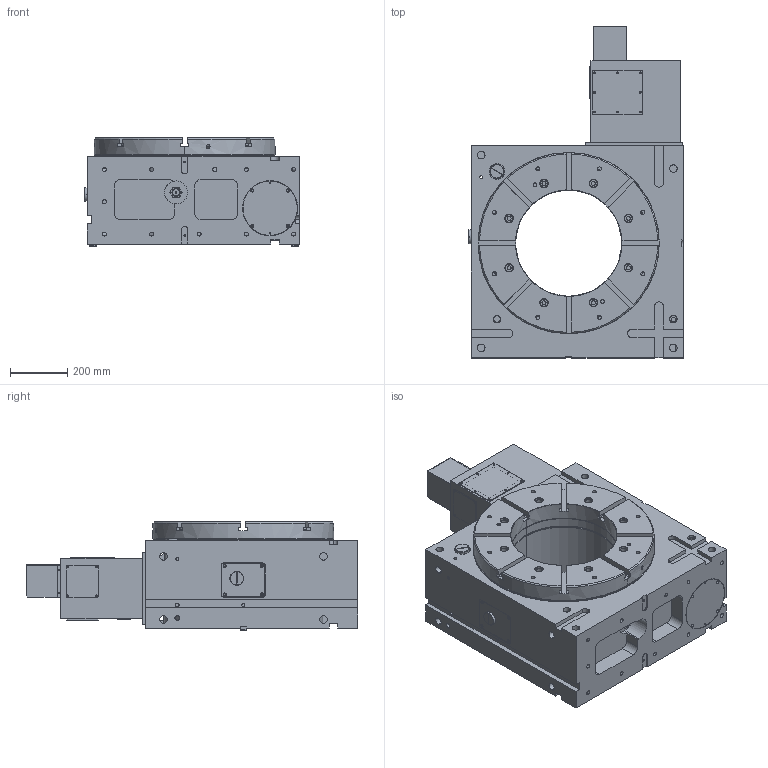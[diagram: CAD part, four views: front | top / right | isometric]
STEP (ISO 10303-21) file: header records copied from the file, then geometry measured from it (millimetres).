
FILE_DESCRIPTION (( 'STEP AP203' ), '1' );
FILE_NAME ('1524467-MDX632R.STEP', '2020-11-25T23:14:49', ( '' ), ( '' ), 'SwSTEP 2.0', 'SolidWorks 2019', '' );
FILE_SCHEMA (( 'CONFIG_CONTROL_DESIGN' ));
Length unit declared in the file: millimetre
Products named in the file (1): 1524467-MDX632R
Bounding box: 749 x 1157.3 x 377 mm (x, y, z)
Surface area: 3741961.2 mm2 (no closed solid volume)
Topology: 0 solids, 50 shells, 880 faces, 2931 edges, 2095 vertices
Faces by surface type: cylinder 458, plane 321, cone 101
Entity records: 33347 total; most frequent: CARTESIAN_POINT 6369, DIRECTION 6101, ORIENTED_EDGE 4774, EDGE_CURVE 2931, AXIS2_PLACEMENT_3D 2353, VERTEX_POINT 2095, CIRCLE 1472, VECTOR 1395
